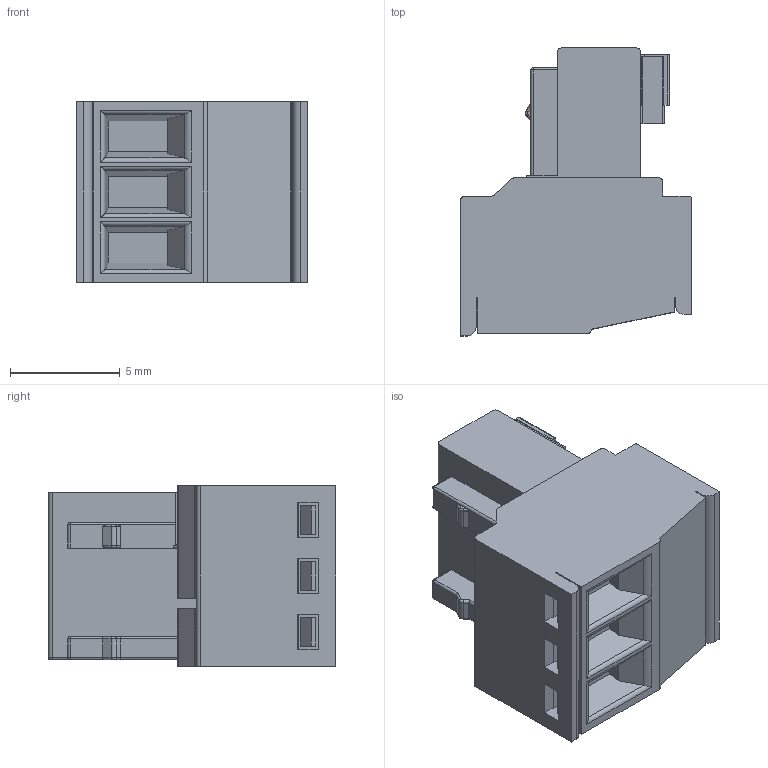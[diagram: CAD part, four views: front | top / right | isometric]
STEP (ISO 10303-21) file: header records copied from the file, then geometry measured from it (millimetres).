
FILE_DESCRIPTION((''),'2;1');
FILE_NAME('TJ-254','2026-03-16T',('Jianxiong.Zeng'),(''),'CREO PARAMETRIC BY PTC INC, 2016260','CREO PARAMETRIC BY PTC INC, 2016260','');
FILE_SCHEMA(('AUTOMOTIVE_DESIGN { 1 0 10303 214 1 1 1 1 }'));
Length unit declared in the file: millimetre
Products named in the file (1): TJ-254
Bounding box: 10.5 x 13.1 x 8.22 mm (x, y, z)
Volume: 686.6 mm3; surface area: 920.3 mm2
Topology: 1 solids, 10 shells, 917 faces, 2537 edges, 1671 vertices
Faces by surface type: plane 703, cylinder 148, torus 39, cone 12, sphere 9, bspline 6
Entity records: 31692 total; most frequent: CARTESIAN_POINT 6243, ORIENTED_EDGE 5068, DIRECTION 4660, EDGE_CURVE 2534, VECTOR 1982, LINE 1982, VERTEX_POINT 1671, AXIS2_PLACEMENT_3D 1339
